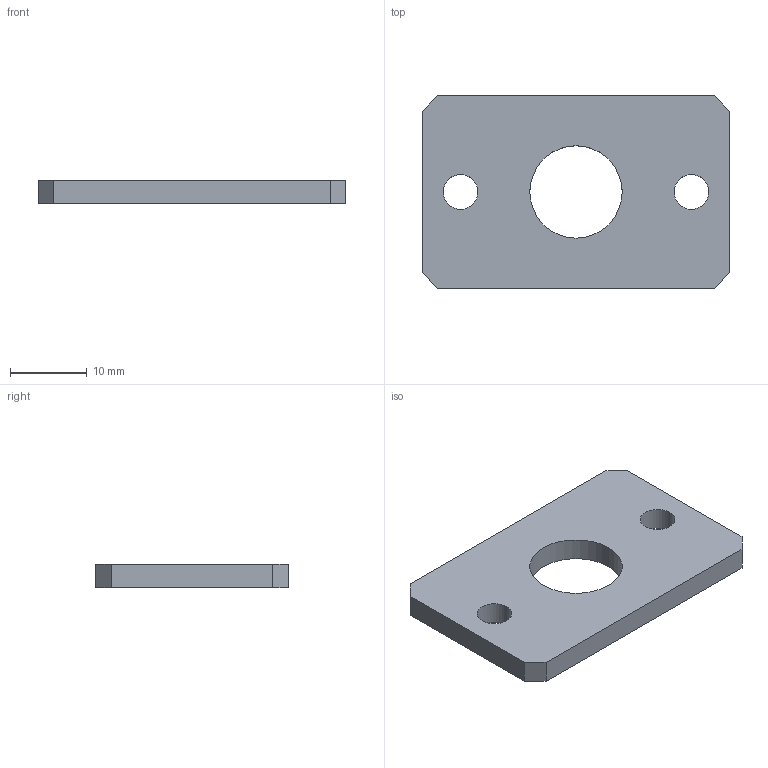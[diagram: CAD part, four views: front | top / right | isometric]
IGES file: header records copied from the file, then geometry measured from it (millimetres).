
Global section: file name: No Iges File Name specified; native system: AutoDesk Inventor R6.0; preprocessor: AutoDesk Inventor Iges Exporter R6.0; author: No Author specified; organization: No Organization specified; date: 20030408.081803; units: millimetre
Bounding box: 40 x 25 x 3 mm (x, y, z)
Volume: 2541.3 mm3; surface area: 2268 mm2
Topology: 1 solids, 1 shells, 16 faces, 42 edges, 28 vertices
Faces by surface type: plane 10, revolution 6
